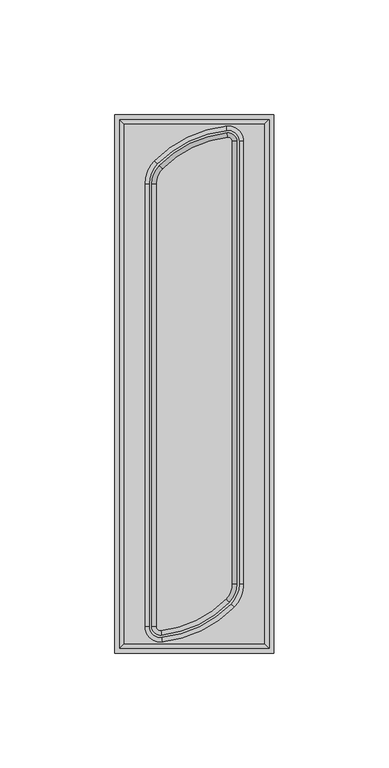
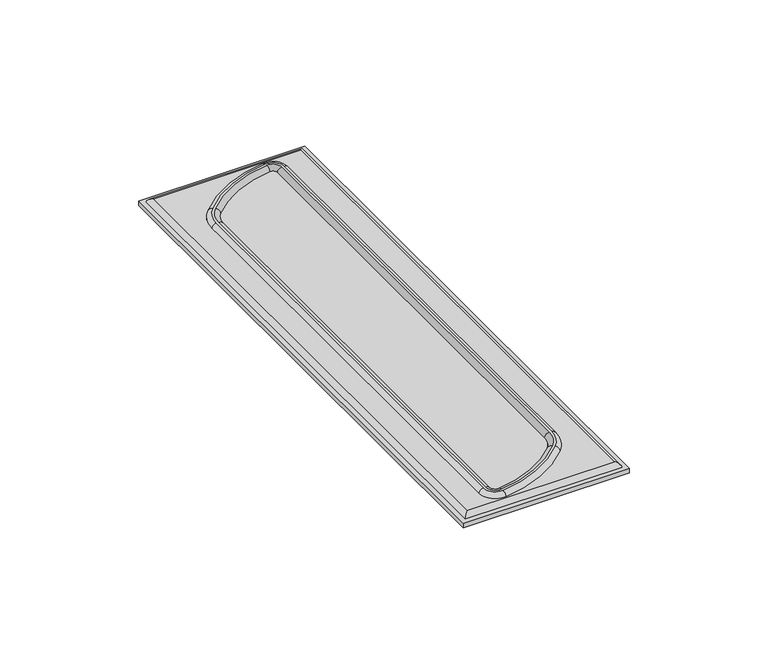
"""IFC4 building model written with IfcOpenShell, lengths in millimetres: proxy geometry, PBSHOP - HORIZONTES NEW YORK 6,5X23 : NEW YORK DECO."""

from ifc_helpers import new_model, si_unit, point, frame, origin, place, context, project, spatial, polyline, circle_curve, ellipse_curve, trimmed, source, transform, mapped, element, save
from ifc_brep_helpers import plane_surface, cylinder_surface, revolved_surface, advanced_brep


def generic_models_acd2f2bb(model_context):
    return source(origin(), model_context, "Body", "AdvancedBrep", [
        advanced_brep(
        [(-19.4640157, -105.5071309, 5.3386208), (-14.2202981, -110.2123811, 5.3386208), (15.8999404, -95.6870493, 5.3386208), (19.4640157, -87.0195837, 5.3386208), (19.4640157, 105.5071309, 5.3386208), (14.2202981, 110.2123811, 5.3386208), (-15.8999404, 95.6870493, 5.3386208), (-19.4640157, 87.0195837, 5.3386208), (-14.3282279, -109.2182226, 5.3386208), (-18.4640157, -105.5071309, 5.3386208), (-18.4640157, 87.0195837, 5.3386208), (-15.1892034, 94.9835915, 5.3386208), (14.3282279, 109.2182226, 5.3386208), (18.4640157, 105.5071309, 5.3386208), (18.4640157, -87.0195837, 5.3386208), (15.1892034, -94.9835915, 5.3386208), (-17.3214146, 97.0939648, 2.9727593), (14.0044387, 112.2006982, 2.9727593), (21.4640157, 105.5071309, 2.9727593), (21.4640157, -87.0195837, 2.9727593), (17.3214146, -97.0939648, 2.9727593), (-14.0044387, -112.2006982, 2.9727593), (-21.4640157, -105.5071309, 2.9727593), (-21.4640157, 87.0195837, 2.9727593), (-13.7677292, 93.576676, 2.9727593), (-16.4640157, 87.0195837, 2.9727593), (-16.4640157, -105.5071309, 2.9727593), (-14.5440873, -107.2299055, 2.9727593), (13.7677292, -93.576676, 2.9727593), (16.4640157, -87.0195837, 2.9727593), (16.4640157, 105.5071309, 2.9727593), (14.5440873, 107.2299055, 2.9727593), (14.5440873, 107.2299055, 3.3386208), (-13.7677292, 93.576676, 3.3386208), (16.4640157, 105.5071309, 3.3386208), (16.4640157, -87.0195837, 3.3386208), (13.7677292, -93.576676, 3.3386208), (-14.5440873, -107.2299055, 3.3386208), (-16.4640157, -105.5071309, 3.3386208), (-16.4640157, 87.0195837, 3.3386208), (-21.4640157, 87.0195837, 3.338622), (-17.3214146, 97.0939648, 3.3386208), (-21.4640157, -105.5071309, 3.3386222), (-14.0044387, -112.2006982, 3.3386222), (17.3214146, -97.0939648, 3.3386219), (21.4640157, -87.0195837, 3.3386219), (21.4640157, 105.5071309, 3.3386208), (14.0044387, 112.2006982, 3.3386222)],
        [
            (0, 1, circle_curve(frame((-14.7311184, -105.5071309, 5.3386208), z_axis=(0.0, 0.0, 1.0), x_axis=(-1.0, 0.0, 0.0)), 4.7328973)),
            (1, 2, circle_curve(frame((-19.6131804, -60.5376524, 5.3386208), z_axis=(0.0, 0.0, 1.0), x_axis=(0.10792972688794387, -0.9941585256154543, 0.0)), 49.9666074)),
            (2, 3, circle_curve(frame((7.1427845, -87.0195837, 5.3386208), z_axis=(0.0, 0.0, 1.0), x_axis=(0.7107370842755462, -0.7034577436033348, 0.0)), 12.3212312)),
            (3, 4),
            (4, 5, circle_curve(frame((14.7311184, 105.5071309, 5.3386208), z_axis=(0.0, 0.0, 1.0), x_axis=(1.0, 0.0, 0.0)), 4.7328973)),
            (5, 6, circle_curve(frame((19.6131804, 60.5376524, 5.3386208), z_axis=(0.0, 0.0, 1.0), x_axis=(-0.10792972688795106, 0.9941585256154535, 0.0)), 49.9666074)),
            (6, 7, circle_curve(frame((-7.1427845, 87.0195837, 5.3386208), z_axis=(0.0, 0.0, 1.0), x_axis=(-0.7107370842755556, 0.7034577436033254, 0.0)), 12.3212312)),
            (7, 0),
            (8, 9, circle_curve(frame((-14.7311184, -105.5071309, 5.3386208), z_axis=(0.0, 0.0, -1.0), x_axis=(-1.0, 0.0, 0.0)), 3.7328973)),
            (9, 10),
            (10, 11, circle_curve(frame((-7.1427845, 87.0195837, 5.3386208), z_axis=(0.0, 0.0, -1.0), x_axis=(-0.7107370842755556, 0.7034577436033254, 0.0)), 11.3212312)),
            (11, 12, circle_curve(frame((19.6131804, 60.5376524, 5.3386208), z_axis=(0.0, 0.0, -1.0), x_axis=(-0.10792972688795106, 0.9941585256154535, 0.0)), 48.9666074)),
            (12, 13, circle_curve(frame((14.7311184, 105.5071309, 5.3386208), z_axis=(0.0, 0.0, -1.0), x_axis=(1.0, 0.0, 0.0)), 3.7328973)),
            (13, 14),
            (14, 15, circle_curve(frame((7.1427845, -87.0195837, 5.3386208), z_axis=(0.0, 0.0, -1.0), x_axis=(0.7107370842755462, -0.7034577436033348, 0.0)), 11.3212312)),
            (15, 8, circle_curve(frame((-19.6131804, -60.5376524, 5.3386208), z_axis=(0.0, 0.0, -1.0), x_axis=(0.10792972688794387, -0.9941585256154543, 0.0)), 48.9666074)),
            (16, 17, circle_curve(frame((19.6131804, 60.5376524, 2.9727593), z_axis=(0.0, 0.0, -1.0), x_axis=(1.0, 0.0, 0.0)), 51.9666074)),
            (17, 18, circle_curve(frame((14.7311184, 105.5071309, 2.9727593), z_axis=(0.0, 0.0, -1.0), x_axis=(1.0, 0.0, 0.0)), 6.7328973)),
            (18, 19),
            (19, 20, circle_curve(frame((7.1427845, -87.0195837, 2.9727593), z_axis=(0.0, 0.0, -1.0), x_axis=(1.0, 0.0, 0.0)), 14.3212312)),
            (20, 21, circle_curve(frame((-19.6131804, -60.5376524, 2.9727593), z_axis=(0.0, 0.0, -1.0), x_axis=(1.0, 0.0, 0.0)), 51.9666074)),
            (21, 22, circle_curve(frame((-14.7311184, -105.5071309, 2.9727593), z_axis=(0.0, 0.0, -1.0), x_axis=(1.0, 0.0, 0.0)), 6.7328973)),
            (22, 23),
            (23, 16, circle_curve(frame((-7.1427845, 87.0195837, 2.9727593), z_axis=(0.0, 0.0, -1.0), x_axis=(1.0, 0.0, 0.0)), 14.3212312)),
            (24, 25, circle_curve(frame((-7.1427845, 87.0195837, 2.9727593), z_axis=(0.0, 0.0, 1.0), x_axis=(1.0, 0.0, 0.0)), 9.3212312)),
            (25, 26),
            (26, 27, circle_curve(frame((-14.7311184, -105.5071309, 2.9727593), z_axis=(0.0, 0.0, 1.0), x_axis=(1.0, 0.0, 0.0)), 1.7328973)),
            (27, 28, circle_curve(frame((-19.6131804, -60.5376524, 2.9727593), z_axis=(0.0, 0.0, 1.0), x_axis=(1.0, 0.0, 0.0)), 46.9666074)),
            (28, 29, circle_curve(frame((7.1427845, -87.0195837, 2.9727593), z_axis=(0.0, 0.0, 1.0), x_axis=(1.0, 0.0, 0.0)), 9.3212312)),
            (29, 30),
            (30, 31, circle_curve(frame((14.7311184, 105.5071309, 2.9727593), z_axis=(0.0, 0.0, 1.0), x_axis=(1.0, 0.0, 0.0)), 1.7328973)),
            (31, 24, circle_curve(frame((19.6131804, 60.5376524, 2.9727593), z_axis=(0.0, 0.0, 1.0), x_axis=(1.0, 0.0, 0.0)), 46.9666074)),
            (31, 32),
            (32, 33, circle_curve(frame((19.6131804, 60.5376524, 3.3386208), z_axis=(0.0, 0.0, 1.0), x_axis=(1.0, 0.0, 0.0)), 46.9666074)),
            (33, 24),
            (30, 34),
            (34, 32, circle_curve(frame((14.7311184, 105.5071309, 3.3386208), z_axis=(0.0, 0.0, 1.0), x_axis=(1.0, 0.0, 0.0)), 1.7328973)),
            (29, 35),
            (35, 34),
            (28, 36),
            (36, 35, circle_curve(frame((7.1427845, -87.0195837, 3.3386208), z_axis=(0.0, 0.0, 1.0), x_axis=(1.0, 0.0, 0.0)), 9.3212312)),
            (27, 37),
            (37, 36, circle_curve(frame((-19.6131804, -60.5376524, 3.3386208), z_axis=(0.0, 0.0, 1.0), x_axis=(1.0, 0.0, 0.0)), 46.9666074)),
            (26, 38),
            (38, 37, circle_curve(frame((-14.7311184, -105.5071309, 3.3386208), z_axis=(0.0, 0.0, 1.0), x_axis=(1.0, 0.0, 0.0)), 1.7328973)),
            (25, 39),
            (39, 38),
            (33, 39, circle_curve(frame((-7.1427845, 87.0195837, 3.3386208), z_axis=(0.0, 0.0, 1.0), x_axis=(1.0, 0.0, 0.0)), 9.3212312)),
            (23, 40),
            (40, 41, circle_curve(frame((-7.1427845, 87.0195837, 3.3386208), z_axis=(0.0, 0.0, -1.0), x_axis=(1.0, 0.0, 0.0)), 14.3212312)),
            (41, 16),
            (22, 42),
            (42, 40),
            (21, 43),
            (43, 42, circle_curve(frame((-14.7311184, -105.5071309, 3.3386208), z_axis=(0.0, 0.0, -1.0), x_axis=(1.0, 0.0, 0.0)), 6.7328973)),
            (20, 44),
            (44, 43, circle_curve(frame((-19.6131804, -60.5376524, 3.3386208), z_axis=(0.0, 0.0, -1.0), x_axis=(1.0, 0.0, 0.0)), 51.9666074)),
            (19, 45),
            (45, 44, circle_curve(frame((7.1427845, -87.0195837, 3.3386208), z_axis=(0.0, 0.0, -1.0), x_axis=(1.0, 0.0, 0.0)), 14.3212312)),
            (18, 46),
            (46, 45),
            (17, 47),
            (47, 46, circle_curve(frame((14.7311184, 105.5071309, 3.3386208), z_axis=(0.0, 0.0, -1.0), x_axis=(1.0, 0.0, 0.0)), 6.7328973)),
            (41, 47, circle_curve(frame((19.6131804, 60.5376524, 3.3386208), z_axis=(0.0, 0.0, -1.0), x_axis=(1.0, 0.0, 0.0)), 51.9666074)),
            (43, 1, circle_curve(frame((-14.2202981, -110.2123811, 3.3386208), z_axis=(-0.9941585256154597, -0.10792972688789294, 0.0), x_axis=(-0.10792972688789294, 0.9941585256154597, 0.0)), 2.0)),
            (0, 42, circle_curve(frame((-19.4640157, -105.5071309, 3.3386208), z_axis=(0.0, -1.0, 0.0), x_axis=(1.0, 0.0, 0.0)), 2.0)),
            (8, 37, circle_curve(frame((-14.3282279, -109.2182226, 3.3386208), z_axis=(-0.9941585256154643, -0.10792972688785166, 0.0), x_axis=(-0.10792972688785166, 0.9941585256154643, 0.0)), 2.0)),
            (38, 9, circle_curve(frame((-18.4640157, -105.5071309, 3.3386208), z_axis=(0.0, -1.0, 0.0), x_axis=(1.0, 0.0, 0.0)), 2.0)),
            (44, 2, circle_curve(frame((15.8999404, -95.6870493, 3.3386208), z_axis=(-0.7034577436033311, -0.7107370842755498, 0.0), x_axis=(-0.7107370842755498, 0.7034577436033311, 0.0)), 2.0)),
            (15, 36, circle_curve(frame((15.1892034, -94.9835915, 3.3386208), z_axis=(-0.7034577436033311, -0.7107370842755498, 0.0), x_axis=(-0.7107370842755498, 0.7034577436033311, 0.0)), 2.0)),
            (45, 3, circle_curve(frame((19.4640157, -87.0195837, 3.3386208), z_axis=(0.0, -1.0, 0.0), x_axis=(-1.0, 0.0, 0.0)), 2.0)),
            (14, 35, circle_curve(frame((18.4640157, -87.0195837, 3.3386208), z_axis=(0.0, -0.9999999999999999, 0.0), x_axis=(-0.9999999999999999, 0.0, 0.0)), 2.0)),
            (46, 4, circle_curve(frame((19.4640157, 105.5071309, 3.3386208), z_axis=(0.0, -1.0, 0.0), x_axis=(-1.0, 0.0, 0.0)), 2.0)),
            (13, 34, circle_curve(frame((18.4640157, 105.5071309, 3.3386208), z_axis=(0.0, -1.0, 0.0), x_axis=(-1.0, 0.0, 0.0)), 2.0)),
            (47, 5, circle_curve(frame((14.2202981, 110.2123811, 3.3386208), z_axis=(0.9941585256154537, 0.10792972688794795, 0.0), x_axis=(0.10792972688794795, -0.9941585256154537, 0.0)), 2.0)),
            (12, 32, circle_curve(frame((14.3282279, 109.2182226, 3.3386208), z_axis=(0.9941585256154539, 0.10792972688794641, 0.0), x_axis=(0.10792972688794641, -0.9941585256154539, 0.0)), 2.0)),
            (41, 6, circle_curve(frame((-15.8999404, 95.6870493, 3.3386208), z_axis=(0.7034577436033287, 0.7107370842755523, 0.0), x_axis=(0.7107370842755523, -0.7034577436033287, 0.0)), 2.0)),
            (11, 33, circle_curve(frame((-15.1892034, 94.9835915, 3.3386208), z_axis=(0.7034577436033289, 0.710737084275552, 0.0), x_axis=(0.710737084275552, -0.7034577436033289, 0.0)), 2.0)),
            (40, 7, circle_curve(frame((-19.4640157, 87.0195837, 3.3386208), z_axis=(0.0, 1.0, 0.0), x_axis=(1.0, 0.0, 0.0)), 2.0)),
            (10, 39, circle_curve(frame((-18.4640157, 87.0195837, 3.3386208), z_axis=(0.0, 1.0, 0.0), x_axis=(1.0, 0.0, 0.0)), 2.0)),
        ],
        [
            plane_surface(frame((66.5797878, 60.5376524, 5.3386208), z_axis=(0.0, 0.0, 1.0), x_axis=(0.0, -1.0, 0.0))),
            plane_surface(frame((66.5797878, 60.5376524, 2.9727593), z_axis=(0.0, 0.0, -1.0), x_axis=(0.0, 1.0, 0.0))),
            revolved_surface(polyline([(66.5797878, 60.5376524, 2.9727593), (66.5797878, 60.5376524, 3.3386208)]), (19.6131804, 60.5376524, 2.9727593), (0.0, 0.0, -1.0)),
            revolved_surface(polyline([(16.4640157, 105.5071309, 2.9727593), (16.4640157, 105.5071309, 3.3386208)]), (14.7311184, 105.5071309, 2.9727593), (0.0, 0.0, -1.0)),
            plane_surface(frame((16.4640157, 105.5071309, 5.3386208), z_axis=(-1.0, 0.0, 0.0), x_axis=(0.0, 0.0, -1.0))),
            revolved_surface(polyline([(16.4640157, -87.0195837, 2.9727593), (16.4640157, -87.0195837, 3.3386208)]), (7.1427845, -87.0195837, 2.9727593), (0.0, 0.0, -1.0)),
            revolved_surface(polyline([(27.353427, -60.5376524, 2.9727593), (27.353427, -60.5376524, 3.3386208)]), (-19.6131804, -60.5376524, 2.9727593), (0.0, 0.0, -1.0)),
            revolved_surface(polyline([(-12.9982211, -105.5071309, 2.9727593), (-12.9982211, -105.5071309, 3.3386208)]), (-14.7311184, -105.5071309, 2.9727593), (0.0, 0.0, -1.0)),
            plane_surface(frame((-16.4640157, -105.5071309, 5.3386208), z_axis=(1.0, 0.0, 0.0), x_axis=(0.0, 0.0, -1.0))),
            revolved_surface(polyline([(2.1784466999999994, 87.0195837, 2.9727593), (2.1784466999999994, 87.0195837, 3.3386208)]), (-7.1427845, 87.0195837, 2.9727593), (0.0, 0.0, -1.0)),
            cylinder_surface(frame((-7.1427845, 87.0195837, 0.0), z_axis=(0.0, 0.0, 1.0), x_axis=(1.0, 0.0, 0.0)), 14.3212312),
            plane_surface(frame((-21.4640157, 87.0195837, 5.3386208), z_axis=(-1.0, 0.0, 0.0), x_axis=(0.0, 0.0, -1.0))),
            cylinder_surface(frame((-14.7311184, -105.5071309, 0.0), z_axis=(0.0, 0.0, 1.0), x_axis=(1.0, 0.0, 0.0)), 6.7328973),
            cylinder_surface(frame((-19.6131804, -60.5376524, 0.0), z_axis=(0.0, 0.0, 1.0), x_axis=(1.0, 0.0, 0.0)), 51.9666074),
            cylinder_surface(frame((7.1427845, -87.0195837, 0.0), z_axis=(0.0, 0.0, 1.0), x_axis=(1.0, 0.0, 0.0)), 14.3212312),
            plane_surface(frame((21.4640157, -87.0195837, 5.3386208), z_axis=(1.0, 0.0, 0.0), x_axis=(0.0, 0.0, -1.0))),
            cylinder_surface(frame((14.7311184, 105.5071309, 0.0), z_axis=(0.0, 0.0, 1.0), x_axis=(1.0, 0.0, 0.0)), 6.7328973),
            cylinder_surface(frame((19.6131804, 60.5376524, 0.0), z_axis=(0.0, 0.0, 1.0), x_axis=(1.0, 0.0, 0.0)), 51.9666074),
            revolved_surface(trimmed(ellipse_curve(frame((-19.4640157, -105.5071309, 3.3386208), z_axis=(0.0, 1.0, 0.0), x_axis=(1.0, 0.0, 0.0)), 2.0, 2.0), [point((-21.4640157, -105.5071309, 3.3386208))], [point((-19.4640157, -105.5071309, 5.3386208))], True, "CARTESIAN"), (-14.7311184, -105.5071309, 5.3386208), (0.0, 0.0, 1.0)),
            revolved_surface(trimmed(ellipse_curve(frame((-18.4640157, -105.5071309, 3.3386208), z_axis=(0.0, 1.0, 0.0), x_axis=(1.0, 0.0, 0.0)), 2.0, 2.0), [point((-18.4640157, -105.5071309, 5.3386208))], [point((-16.4640157, -105.5071309, 3.3386208))], True, "CARTESIAN"), (-14.7311184, -105.5071309, 5.3386208), (0.0, 0.0, 1.0)),
            revolved_surface(trimmed(ellipse_curve(frame((-14.2202981, -110.2123811, 3.3386208), z_axis=(-0.9941585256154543, -0.10792972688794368, 0.0), x_axis=(-0.10792972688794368, 0.9941585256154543, 0.0)), 2.0, 2.0), [point((-14.0044387, -112.2006982, 3.3386208))], [point((-14.2202981, -110.2123811, 5.3386208))], True, "CARTESIAN"), (-19.6131804, -60.5376524, 5.3386208), (0.0, 0.0, 1.0)),
            revolved_surface(trimmed(ellipse_curve(frame((-14.3282279, -109.2182226, 3.3386208), z_axis=(-0.9941585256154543, -0.10792972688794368, 0.0), x_axis=(-0.10792972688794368, 0.9941585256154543, 0.0)), 2.0, 2.0), [point((-14.3282279, -109.2182226, 5.3386208))], [point((-14.5440873, -107.2299055, 3.3386208))], True, "CARTESIAN"), (-19.6131804, -60.5376524, 5.3386208), (0.0, 0.0, 1.0)),
            revolved_surface(trimmed(ellipse_curve(frame((15.8999404, -95.6870493, 3.3386208), z_axis=(-0.7034577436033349, -0.710737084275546, 0.0), x_axis=(-0.710737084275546, 0.7034577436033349, 0.0)), 2.0, 2.0), [point((17.3214146, -97.0939648, 3.3386208))], [point((15.8999404, -95.6870493, 5.3386208))], True, "CARTESIAN"), (7.1427845, -87.0195837, 5.3386208), (0.0, 0.0, 1.0)),
            revolved_surface(trimmed(ellipse_curve(frame((15.1892034, -94.9835915, 3.3386208), z_axis=(-0.7034577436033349, -0.710737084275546, 0.0), x_axis=(-0.710737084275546, 0.7034577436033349, 0.0)), 2.0, 2.0), [point((15.1892034, -94.9835915, 5.3386208))], [point((13.7677292, -93.576676, 3.3386208))], True, "CARTESIAN"), (7.1427845, -87.0195837, 5.3386208), (0.0, 0.0, 1.0)),
            cylinder_surface(frame((19.4640157, -87.0195837, 3.3386208), z_axis=(0.0, 1.0, 0.0), x_axis=(-1.0, 0.0, 0.0)), 2.0),
            cylinder_surface(frame((18.4640157, -87.0195837, 3.3386208), z_axis=(0.0, 1.0, 0.0), x_axis=(-1.0, 0.0, 0.0)), 2.0),
            revolved_surface(trimmed(ellipse_curve(frame((19.4640157, 105.5071309, 3.3386208), z_axis=(0.0, -1.0, 0.0), x_axis=(-1.0, 0.0, 0.0)), 2.0, 2.0), [point((21.4640157, 105.5071309, 3.3386208))], [point((19.4640157, 105.5071309, 5.3386208))], True, "CARTESIAN"), (14.7311184, 105.5071309, 5.3386208), (0.0, 0.0, 1.0)),
            revolved_surface(trimmed(ellipse_curve(frame((18.4640157, 105.5071309, 3.3386208), z_axis=(0.0, -1.0, 0.0), x_axis=(-1.0, 0.0, 0.0)), 2.0, 2.0), [point((18.4640157, 105.5071309, 5.3386208))], [point((16.4640157, 105.5071309, 3.3386208))], True, "CARTESIAN"), (14.7311184, 105.5071309, 5.3386208), (0.0, 0.0, 1.0)),
            revolved_surface(trimmed(ellipse_curve(frame((14.2202981, 110.2123811, 3.3386208), z_axis=(0.9941585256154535, 0.10792972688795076, 0.0), x_axis=(0.10792972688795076, -0.9941585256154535, 0.0)), 2.0, 2.0), [point((14.0044387, 112.2006982, 3.3386208))], [point((14.2202981, 110.2123811, 5.3386208))], True, "CARTESIAN"), (19.6131804, 60.5376524, 5.3386208), (0.0, 0.0, 1.0)),
            revolved_surface(trimmed(ellipse_curve(frame((14.3282279, 109.2182226, 3.3386208), z_axis=(0.9941585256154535, 0.10792972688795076, 0.0), x_axis=(0.10792972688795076, -0.9941585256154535, 0.0)), 2.0, 2.0), [point((14.3282279, 109.2182226, 5.3386208))], [point((14.5440873, 107.2299055, 3.3386208))], True, "CARTESIAN"), (19.6131804, 60.5376524, 5.3386208), (0.0, 0.0, 1.0)),
            revolved_surface(trimmed(ellipse_curve(frame((-15.8999404, 95.6870493, 3.3386208), z_axis=(0.7034577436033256, 0.7107370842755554, 0.0), x_axis=(0.7107370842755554, -0.7034577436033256, 0.0)), 2.0, 2.0), [point((-17.3214146, 97.0939648, 3.3386208))], [point((-15.8999404, 95.6870493, 5.3386208))], True, "CARTESIAN"), (-7.1427845, 87.0195837, 5.3386208), (0.0, 0.0, 1.0)),
            revolved_surface(trimmed(ellipse_curve(frame((-15.1892034, 94.9835915, 3.3386208), z_axis=(0.7034577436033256, 0.7107370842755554, 0.0), x_axis=(0.7107370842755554, -0.7034577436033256, 0.0)), 2.0, 2.0), [point((-15.1892034, 94.9835915, 5.3386208))], [point((-13.7677292, 93.576676, 3.3386208))], True, "CARTESIAN"), (-7.1427845, 87.0195837, 5.3386208), (0.0, 0.0, 1.0)),
            cylinder_surface(frame((-19.4640157, 87.0195837, 3.3386208), z_axis=(0.0, -1.0, 0.0), x_axis=(1.0, 0.0, 0.0)), 2.0),
            cylinder_surface(frame((-18.4640157, 87.0195837, 3.3386208), z_axis=(0.0, -1.0, 0.0), x_axis=(1.0, 0.0, 0.0)), 2.0),
        ],
        [
            (0, [[1, 2, 3, 4, 5, 6, 7, 8], [9, 10, 11, 12, 13, 14, 15, 16]]),
            (1, [[17, 18, 19, 20, 21, 22, 23, 24], [25, 26, 27, 28, 29, 30, 31, 32]]),
            (2, [[-32, 33, 34, 35]]),
            (3, [[-31, 36, 37, -33]]),
            (4, [[-30, 38, 39, -36]]),
            (5, [[-29, 40, 41, -38]]),
            (6, [[-28, 42, 43, -40]]),
            (7, [[-27, 44, 45, -42]]),
            (8, [[-26, 46, 47, -44]]),
            (9, [[-25, -35, 48, -46]]),
            (10, [[-24, 49, 50, 51]]),
            (11, [[-23, 52, 53, -49]]),
            (12, [[-22, 54, 55, -52]]),
            (13, [[-21, 56, 57, -54]]),
            (14, [[-20, 58, 59, -56]]),
            (15, [[-19, 60, 61, -58]]),
            (16, [[-18, 62, 63, -60]]),
            (17, [[-17, -51, 64, -62]]),
            (18, [[65, -1, 66, -55]]),
            (19, [[67, -45, 68, -9]]),
            (20, [[-65, -57, 69, -2]]),
            (21, [[-67, -16, 70, -43]]),
            (22, [[-69, -59, 71, -3]]),
            (23, [[-70, -15, 72, -41]]),
            (24, [[-71, -61, 73, -4]]),
            (25, [[-72, -14, 74, -39]]),
            (26, [[-73, -63, 75, -5]]),
            (27, [[-74, -13, 76, -37]]),
            (28, [[-75, -64, 77, -6]]),
            (29, [[-76, -12, 78, -34]]),
            (30, [[-77, -50, 79, -7]]),
            (31, [[-78, -11, 80, -48]]),
            (32, [[-66, -8, -79, -53]]),
            (33, [[-68, -47, -80, -10]]),
        ],
    ),
        advanced_brep(
        [(-30.5, -113.0, 4.0), (30.5, -113.0, 4.0), (30.5, 113.0, 4.0), (-30.5, 113.0, 4.0), (34.5, 117.0, 0.0), (34.5, -117.0, 0.0), (-34.5, -117.0, 0.0), (-34.5, 117.0, 0.0), (32.5, -115.0, 2.0), (-32.5, -115.0, 2.0), (32.5, 115.0, 2.0), (-32.5, 115.0, 2.0), (34.5, 117.0, 2.0), (-34.5, 117.0, 2.0), (-34.5, -117.0, 2.0), (34.5, -117.0, 2.0)],
        [
            (0, 1),
            (1, 2),
            (2, 3),
            (3, 0),
            (4, 5),
            (5, 6),
            (6, 7),
            (7, 4),
            (8, 1, ellipse_curve(frame((30.5, -113.0, 2.0), z_axis=(-0.7071067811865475, -0.7071067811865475, 0.0), x_axis=(0.7071067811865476, -0.7071067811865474, 0.0)), 2.8284271, 2.0)),
            (0, 9, ellipse_curve(frame((-30.5, -113.0, 2.0), z_axis=(0.7071067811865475, -0.7071067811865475, 0.0), x_axis=(0.7071067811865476, 0.7071067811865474, 0.0)), 2.8284271, 2.0)),
            (9, 8),
            (8, 10),
            (10, 2, ellipse_curve(frame((30.5, 113.0, 2.0), z_axis=(0.7071067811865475, -0.7071067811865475, 0.0), x_axis=(0.7071067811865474, 0.7071067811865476, 0.0)), 2.8284271, 2.0)),
            (10, 11),
            (11, 3, ellipse_curve(frame((-30.5, 113.0, 2.0), z_axis=(0.7071067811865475, 0.7071067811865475, 0.0), x_axis=(-0.7071067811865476, 0.7071067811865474, 0.0)), 2.8284271, 2.0)),
            (11, 9),
            (12, 13),
            (13, 14),
            (14, 15),
            (15, 12),
            (12, 4),
            (7, 13),
            (6, 14),
            (5, 15),
        ],
        [
            plane_surface(frame((-32.5, -115.0, 4.0), z_axis=(0.0, 0.0, 1.0), x_axis=(1.0, 0.0, 0.0))),
            plane_surface(frame((-32.5, -115.0, 0.0), z_axis=(0.0, 0.0, -1.0), x_axis=(-1.0, 0.0, 0.0))),
            cylinder_surface(frame((-32.5, -113.0, 2.0), z_axis=(1.0, 0.0, 0.0), x_axis=(0.0, 1.0, 0.0)), 2.0),
            cylinder_surface(frame((30.5, -115.0, 2.0), z_axis=(0.0, 1.0, 0.0), x_axis=(-1.0, 0.0, 0.0)), 2.0),
            cylinder_surface(frame((32.5, 113.0, 2.0), z_axis=(-1.0, 0.0, 0.0), x_axis=(0.0, -1.0, 0.0)), 2.0),
            cylinder_surface(frame((-30.5, 115.0, 2.0), z_axis=(0.0, -1.0, 0.0), x_axis=(1.0, 0.0, 0.0)), 2.0),
            plane_surface(frame((-34.5, 117.0, 2.0), z_axis=(0.0, 0.0, 1.0), x_axis=(-1.0, 0.0, 0.0))),
            plane_surface(frame((34.5, 117.0, 2.0), z_axis=(0.0, 1.0, 0.0), x_axis=(0.0, 0.0, -1.0))),
            plane_surface(frame((-34.5, 117.0, 2.0), z_axis=(-1.0, 0.0, 0.0), x_axis=(0.0, 0.0, -1.0))),
            plane_surface(frame((-34.5, -117.0, 2.0), z_axis=(0.0, -1.0, 0.0), x_axis=(0.0, 0.0, -1.0))),
            plane_surface(frame((34.5, -117.0, 2.0), z_axis=(1.0, 0.0, 0.0), x_axis=(0.0, 0.0, -1.0))),
        ],
        [
            (0, [[1, 2, 3, 4]]),
            (1, [[5, 6, 7, 8]]),
            (2, [[9, -1, 10, 11]]),
            (3, [[-9, 12, 13, -2]]),
            (4, [[-13, 14, 15, -3]]),
            (5, [[-10, -4, -15, 16]]),
            (6, [[17, 18, 19, 20], [-11, -16, -14, -12]]),
            (7, [[-17, 21, -8, 22]]),
            (8, [[-18, -22, -7, 23]]),
            (9, [[-19, -23, -6, 24]]),
            (10, [[-20, -24, -5, -21]]),
        ],
    ),
    ])


if __name__ == "__main__":
    model = new_model("IFC4")
    model_context = context("Model", 3, world=origin())
    ifc_project = project(units=[si_unit("LENGTHUNIT", "METRE", prefix="MILLI")], contexts=[model_context])
    site = spatial("IfcSite", under=ifc_project)
    building = spatial("IfcBuilding", under=site)
    placement = place(None, origin())
    generic_models_shape = generic_models_acd2f2bb(model_context)
    element("IfcBuildingElementProxy", 1, Name="PBSHOP - HORIZONTES NEW YORK 6,5X23 : NEW YORK DECO", ObjectType="PBSHOP - HORIZONTES NEW YORK 6,5X23 : NEW YORK DECO", at=placement, inside=building, context=model_context, shape_type="MappedRepresentation", body=[
        mapped(generic_models_shape, transform((0.0, 0.0, 0.0), x_axis=(1.0, 0.0, 0.0), y_axis=(0.0, 1.0, 0.0), z_axis=(0.0, 0.0, 1.0))),
    ])
    save(model, "model.ifc")
